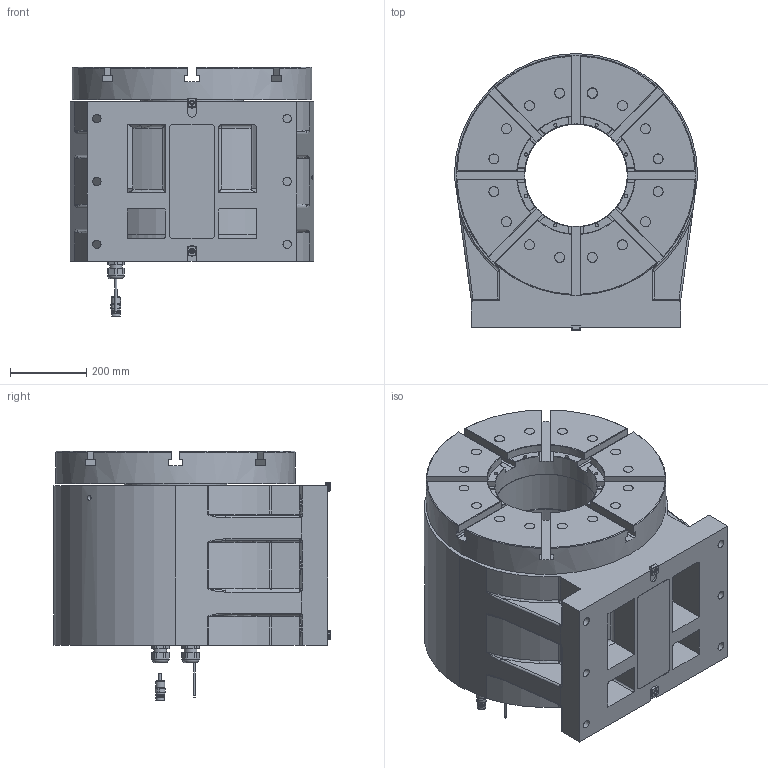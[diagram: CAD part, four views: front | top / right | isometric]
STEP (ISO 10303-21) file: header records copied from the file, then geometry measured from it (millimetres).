
FILE_DESCRIPTION (( 'STEP AP203' ), '1' );
FILE_NAME ('1524316.STEP', '2021-08-25T04:27:16', ( '' ), ( '' ), 'SwSTEP 2.0', 'SolidWorks 2021', '' );
FILE_SCHEMA (( 'CONFIG_CONTROL_DESIGN' ));
Length unit declared in the file: millimetre
Products named in the file (1): 1524316
Bounding box: 640 x 727 x 655.5 mm (x, y, z)
Surface area: 3372138.1 mm2 (no closed solid volume)
Topology: 0 solids, 36 shells, 565 faces, 1546 edges, 1004 vertices
Faces by surface type: plane 316, cylinder 149, cone 38, torus 23, bspline 22, sphere 17
Full cylindrical faces by diameter (mm): 1.33 x2, 5 x3, 6.5 x1, 8 x1, 8.5 x8, 10.2 x2, 10.7 x1, 11 x4, 20 x7, 22 x8, 23 x1, 23.6 x1, 23.8 x1, 24.519 x1, 30 x2, 33.25 x2, 43 x2, 45 x6, 270 x4, 275 x1, 276 x1, 552 x2, 554 x1, 630 x1
Entity records: 19844 total; most frequent: CARTESIAN_POINT 6054, DIRECTION 2895, ORIENTED_EDGE 2561, EDGE_CURVE 1428, AXIS2_PLACEMENT_3D 1082, VERTEX_POINT 974, EDGE_LOOP 750, VECTOR 731
